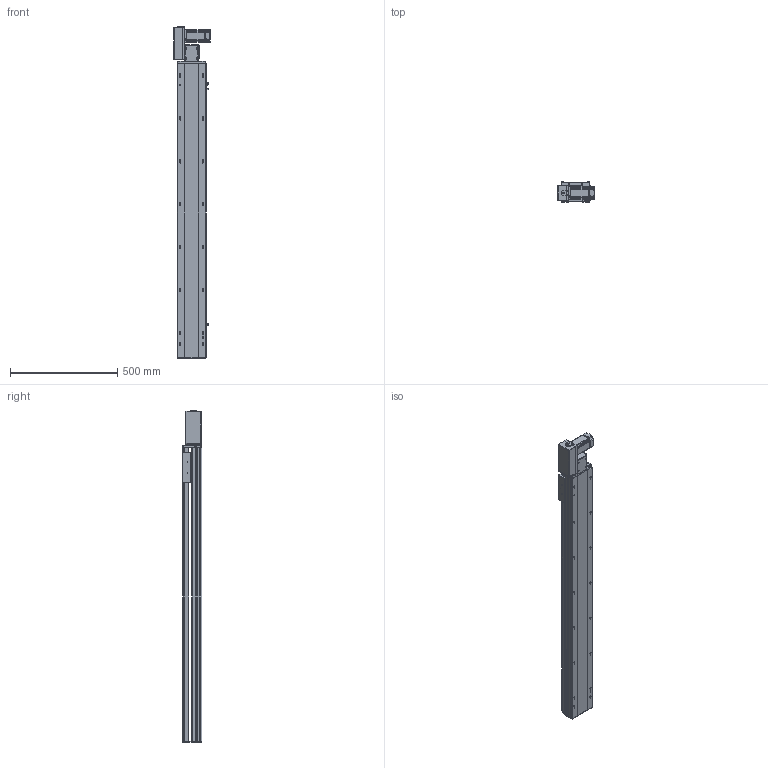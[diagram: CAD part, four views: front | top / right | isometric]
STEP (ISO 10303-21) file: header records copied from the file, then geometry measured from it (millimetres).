
FILE_DESCRIPTION (( 'STEP AP214' ), '1' );
FILE_NAME ('TPT14M-L40-1100-L-T40-C4.STEP', '2023-03-07T00:21:46', ( '' ), ( '' ), 'SwSTEP 2.0', 'SolidWorks 2020', '' );
FILE_SCHEMA (( 'AUTOMOTIVE_DESIGN' ));
Length unit declared in the file: millimetre
Products named in the file (9): 葩璃 TPT14-L-007 々湍釱MZ-169x88^TPT14M-L40-L-T40-C4_YTB14M; TPT14M-L40-1100-L-T40-C4; hexagon head bolts-full thread gb_GB_FASTENER_BOLT_STBAB A M5X16-N; 葩璃 侂狟400W^TPT14M-L40-L-T40-C4; 葩璃 pm-t65-672^TPT14M-L40-L-T40-C4; 葩璃 TPT14-L-009 萇儂啣^TPT14M-L40-L-T40-C4_400W; 葩璃 TPT14-L-002 奻裔MZ-135-05^TPT14M-L40-L-T40-C4; 葩璃 TPT14-L-001 菁釱MZ-135-01^TPT14M-L40-L-T40-C4; 葩璃 TPT14-L-005 賑釱MZ-135-07^TPT14M-L40-L-T40-C4
Assembly tree (10 placements, depth 2):
  TPT14M-L40-1100-L-T40-C4
    葩璃 TPT14-L-001 菁釱MZ-135-01^TPT14M-L40-L-T40-C4
    葩璃 TPT14-L-002 奻裔MZ-135-05^TPT14M-L40-L-T40-C4
    葩璃 TPT14-L-005 賑釱MZ-135-07^TPT14M-L40-L-T40-C4
    葩璃 TPT14-L-007 々湍釱MZ-169x88^TPT14M-L40-L-T40-C4_YTB14M
    葩璃 TPT14-L-009 萇儂啣^TPT14M-L40-L-T40-C4_400W
    葩璃 pm-t65-672^TPT14M-L40-L-T40-C4  x3
    葩璃 侂狟400W^TPT14M-L40-L-T40-C4
    hexagon head bolts-full thread gb_GB_FASTENER_BOLT_STBAB A M5X16-N
Bounding box: 170.5 x 93 x 1545.15 mm (x, y, z)
Volume: 9233754.7 mm3; surface area: 1378257.6 mm2
Topology: 18 solids, 18 shells, 1458 faces, 3817 edges, 2436 vertices
Faces by surface type: plane 770, cylinder 516, cone 146, bspline 26
Entity records: 39700 total; most frequent: CARTESIAN_POINT 7334, DIRECTION 6564, ORIENTED_EDGE 6186, EDGE_CURVE 3093, AXIS2_PLACEMENT_3D 2322, VERTEX_POINT 2012, VECTOR 1920, LINE 1920
